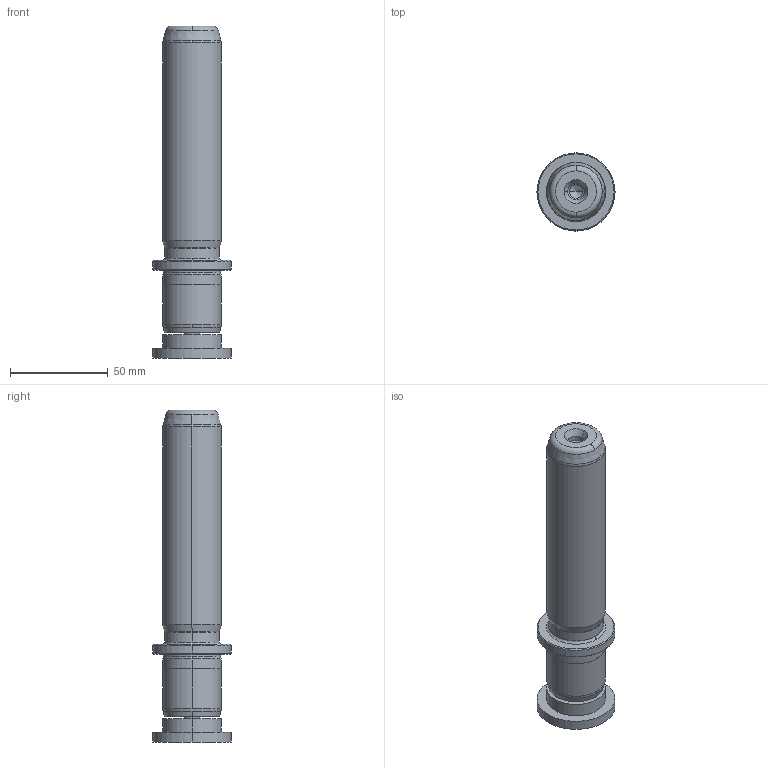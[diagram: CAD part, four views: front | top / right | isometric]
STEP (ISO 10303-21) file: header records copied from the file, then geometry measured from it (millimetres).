
FILE_DESCRIPTION((''),'2;1');
FILE_NAME('P22_030_125.stp','2009-02-03T10:19:28',(''),(''),'Mechanical Desktop 2009','Mechanical Desktop 2009',', , ');
FILE_SCHEMA(('CONFIG_CONTROL_DESIGN'));
Length unit declared in the file: millimetre
Products named in the file (2): Product; blmdl1
Assembly tree (1 placements, depth 2):
  Product
    blmdl1
Bounding box: 40 x 40 x 170 mm (x, y, z)
Volume: 121178.4 mm3; surface area: 23432.5 mm2
Topology: 3 solids, 3 shells, 99 faces, 237 edges, 149 vertices
Faces by surface type: cylinder 32, cone 28, plane 19, torus 10, bspline 10
Entity records: 3419 total; most frequent: CARTESIAN_POINT 923, DIRECTION 570, ORIENTED_EDGE 466, AXIS2_PLACEMENT_3D 246, EDGE_CURVE 233, CIRCLE 155, VERTEX_POINT 149, EDGE_LOOP 110
